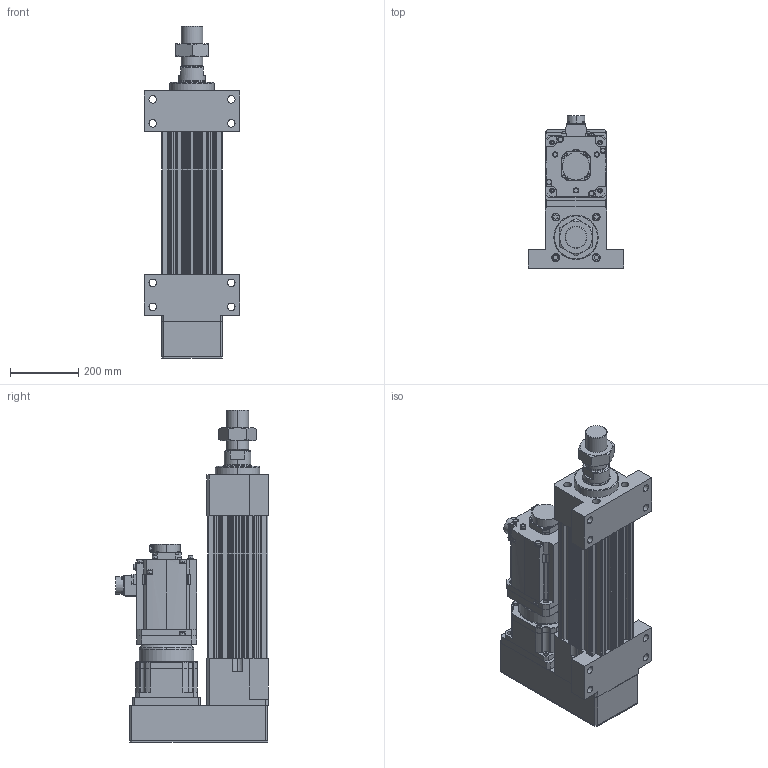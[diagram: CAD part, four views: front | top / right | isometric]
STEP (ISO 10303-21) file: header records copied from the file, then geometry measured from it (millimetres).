
FILE_DESCRIPTION (( 'STEP AP203' ), '1' );
FILE_NAME ('HES180HS-P100-W070G00-M-FFB.STEP', '2026-06-10T06:42:59', ( 'tms' ), ( '' ), 'SwSTEP 2.0', 'SolidWorks 2013', '' );
FILE_SCHEMA (( 'CONFIG_CONTROL_DESIGN' ));
Length unit declared in the file: millimetre
Products named in the file (9): HES180-M-ROD-100; HES180HS-P100-W070G00-M-FFB; AB1801; HG-SR702B; AB1803; HES180-FFB-100; HES180-P-G180; AB1802; M64X2.0P
Assembly tree (8 placements, depth 2):
  HES180HS-P100-W070G00-M-FFB
    HES180-FFB-100
    HES180-M-ROD-100
    M64X2.0P
    HES180-P-G180
    AB1801
    AB1802
    AB1803
    HG-SR702B
Bounding box: 280 x 447.1 x 972 mm (x, y, z)
Volume: 26287377.5 mm3; surface area: 2209639.1 mm2
Topology: 5 solids, 20 shells, 1500 faces, 3895 edges, 2540 vertices
Faces by surface type: cylinder 692, plane 607, cone 134, bspline 63, torus 4
Entity records: 54836 total; most frequent: CARTESIAN_POINT 16372, DIRECTION 8097, ORIENTED_EDGE 7714, EDGE_CURVE 3881, AXIS2_PLACEMENT_3D 3045, VERTEX_POINT 2540, LINE 2007, VECTOR 2007
